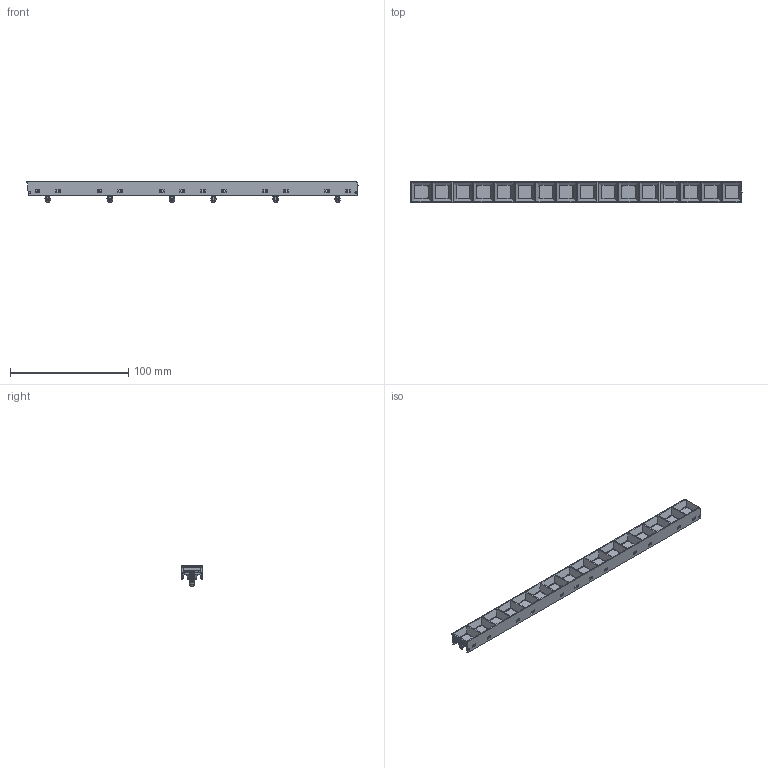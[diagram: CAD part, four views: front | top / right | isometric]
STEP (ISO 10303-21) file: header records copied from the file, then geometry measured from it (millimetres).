
FILE_DESCRIPTION(/* description */ ('Unknown'),/* implementation_level */ '2;1');
FILE_NAME(/* name */ '025-000-0M',/* time_stamp */ '2025-05-08T16:09:33+02:00',/* author */ ('Unknown'),/* organization */ ('Unknown'),/* preprocessor_version */ 'ST-DEVELOPER v16.7',/* originating_system */ 'Solid Edge',/* authorisation */ 'Unknown');
FILE_SCHEMA (('AUTOMOTIVE_DESIGN {1 0 10303 214 3 1 1}'));
Products named in the file (3): 025-000-0M; 025-000-0D; 024-Z00-03
Assembly tree (3 placements, depth 2):
  025-000-0M
    025-000-0D  x2
    024-Z00-03
Bounding box: 280.64 x 18 x 17.4 mm (x, y, z)
Volume: 21348.1 mm3; surface area: 31428 mm2
Topology: 3 solids, 3 shells, 3397 faces, 9254 edges, 5898 vertices
Faces by surface type: plane 1735, cylinder 847, bspline 297, cone 264, torus 182, sphere 72
Full cylindrical faces by diameter (mm): 6.1 x16
Entity records: 82522 total; most frequent: CARTESIAN_POINT 19794, ORIENTED_EDGE 11636, DIRECTION 10430, VERTEX_POINT 6826, EDGE_CURVE 5818, FACE_BOUND 5394, LINE 3838, VECTOR 3838
